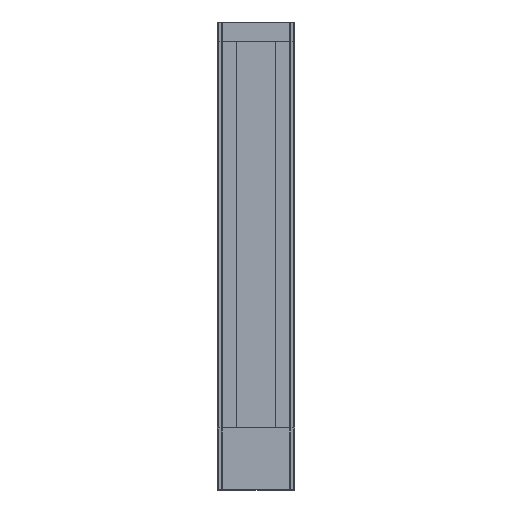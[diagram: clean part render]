
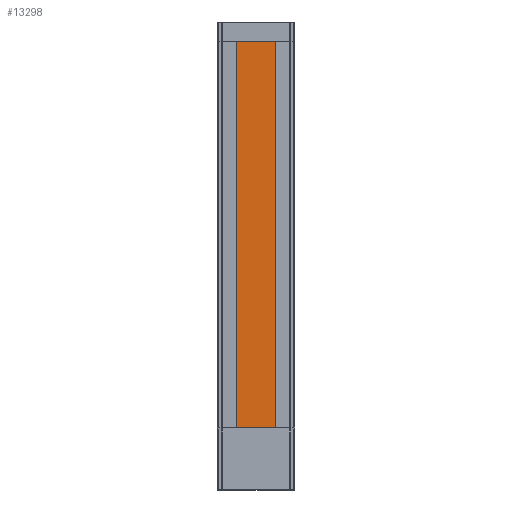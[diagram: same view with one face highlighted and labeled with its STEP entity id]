
A CAD part, top view. The second image highlights one B-rep face of the part: STEP entity #13298.
In plain terms, the highlighted planar face has unit normal (0, 0, 1).
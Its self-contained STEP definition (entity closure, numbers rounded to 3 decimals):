
#498 = CARTESIAN_POINT ( 'NONE',  ( -10., 0., 39. ) ) ;
#611 = VERTEX_POINT ( 'NONE', #3880 ) ;
#1851 = CARTESIAN_POINT ( 'NONE',  ( -10., 200., 39. ) ) ;
#2834 = EDGE_CURVE ( 'NONE', #611, #20521, #19638, .T. ) ;
#3880 = CARTESIAN_POINT ( 'NONE',  ( -10., 200., 39. ) ) ;
#5190 = CARTESIAN_POINT ( 'NONE',  ( 10., 200., 39. ) ) ;
#5464 = DIRECTION ( 'NONE',  ( 0., -1., 0. ) ) ;
#5688 = CARTESIAN_POINT ( 'NONE',  ( 10., 0., 39. ) ) ;
#6926 = FACE_OUTER_BOUND ( 'NONE', #9589, .T. ) ;
#7700 = LINE ( 'NONE', #15918, #16997 ) ;
#8389 = EDGE_CURVE ( 'NONE', #611, #12474, #15009, .T. ) ;
#9501 = EDGE_CURVE ( 'NONE', #20521, #25838, #20230, .T. ) ;
#9589 = EDGE_LOOP ( 'NONE', ( #14824, #14353, #22692, #19459 ) ) ;
#11682 = DIRECTION ( 'NONE',  ( 1., 0., 0. ) ) ;
#12474 = VERTEX_POINT ( 'NONE', #498 ) ;
#13218 = CARTESIAN_POINT ( 'NONE',  ( 0., 200., 39. ) ) ;
#13298 = ADVANCED_FACE ( 'NONE', ( #6926 ), #15273, .F. ) ;
#13604 = EDGE_CURVE ( 'NONE', #12474, #25838, #7700, .T. ) ;
#14353 = ORIENTED_EDGE ( 'NONE', *, *, #2834, .F. ) ;
#14604 = DIRECTION ( 'NONE',  ( 0., -1., 0. ) ) ;
#14824 = ORIENTED_EDGE ( 'NONE', *, *, #9501, .F. ) ;
#15009 = LINE ( 'NONE', #1851, #25807 ) ;
#15273 = PLANE ( 'NONE',  #21430 ) ;
#15918 = CARTESIAN_POINT ( 'NONE',  ( 0., 0., 39. ) ) ;
#16997 = VECTOR ( 'NONE', #11682, 1000. ) ;
#17178 = CARTESIAN_POINT ( 'NONE',  ( 0., 200., 39. ) ) ;
#17961 = CARTESIAN_POINT ( 'NONE',  ( 10., 200., 39. ) ) ;
#18584 = VECTOR ( 'NONE', #25518, 1000. ) ;
#19245 = VECTOR ( 'NONE', #5464, 1000. ) ;
#19459 = ORIENTED_EDGE ( 'NONE', *, *, #13604, .T. ) ;
#19638 = LINE ( 'NONE', #17178, #18584 ) ;
#20051 = DIRECTION ( 'NONE',  ( -1., 0., 0. ) ) ;
#20230 = LINE ( 'NONE', #5190, #19245 ) ;
#20521 = VERTEX_POINT ( 'NONE', #17961 ) ;
#21430 = AXIS2_PLACEMENT_3D ( 'NONE', #13218, #21569, #20051 ) ;
#21569 = DIRECTION ( 'NONE',  ( 0., 0., -1. ) ) ;
#22692 = ORIENTED_EDGE ( 'NONE', *, *, #8389, .T. ) ;
#25518 = DIRECTION ( 'NONE',  ( 1., 0., 0. ) ) ;
#25807 = VECTOR ( 'NONE', #14604, 1000. ) ;
#25838 = VERTEX_POINT ( 'NONE', #5688 ) ;
